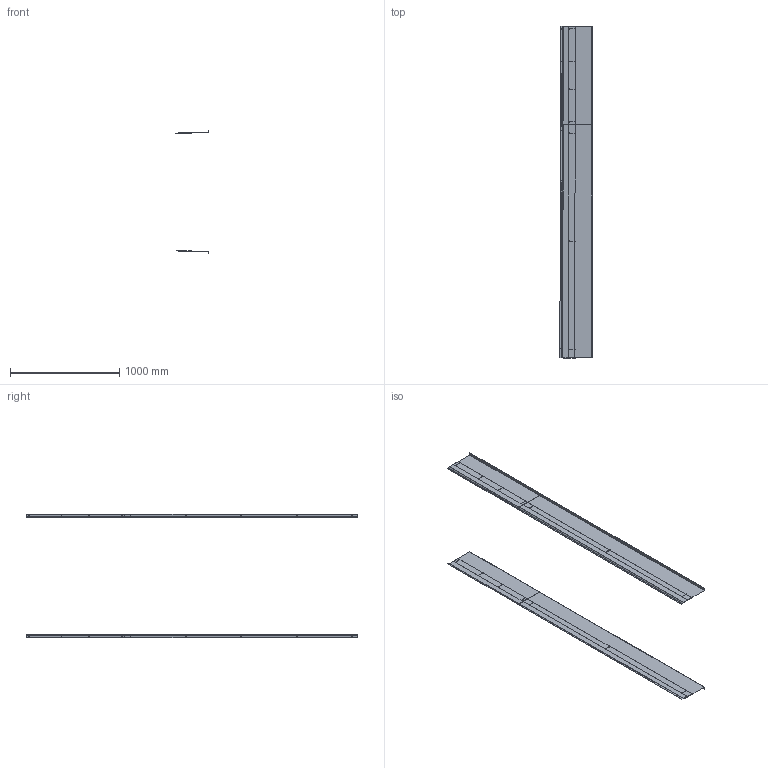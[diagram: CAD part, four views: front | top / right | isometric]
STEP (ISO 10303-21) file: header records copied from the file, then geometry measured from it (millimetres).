
FILE_DESCRIPTION (( 'STEP AP214' ), '1' );
FILE_NAME ('QSTX-10.STEP', '2016-07-28T14:51:22', ( 'BMC' ), ( 'Bard Manufacturing Co., Inc.' ), 'SwSTEP 2.0', 'SolidWorks 2016', '' );
FILE_SCHEMA (( 'AUTOMOTIVE_DESIGN' ));
Length unit declared in the file: inch
Products named in the file (6): 134-254; 134-255; 134-256; QSTX-10; 134-261; 134-264
Assembly tree (8 placements, depth 2):
  QSTX-10
    134-261  x2
    134-264  x2
    134-254
    134-255
    134-256  x2
Bounding box: 296.11 x 3036.21 x 1132.45 mm (x, y, z)
Surface area: 4594864.8 mm2 (no closed solid volume)
Topology: 0 solids, 8 shells, 298 faces, 838 edges, 556 vertices
Faces by surface type: cylinder 182, plane 116
Entity records: 6784 total; most frequent: DIRECTION 1197, CARTESIAN_POINT 1115, ORIENTED_EDGE 1094, EDGE_CURVE 547, AXIS2_PLACEMENT_3D 444, VERTEX_POINT 362, VECTOR 309, LINE 309
